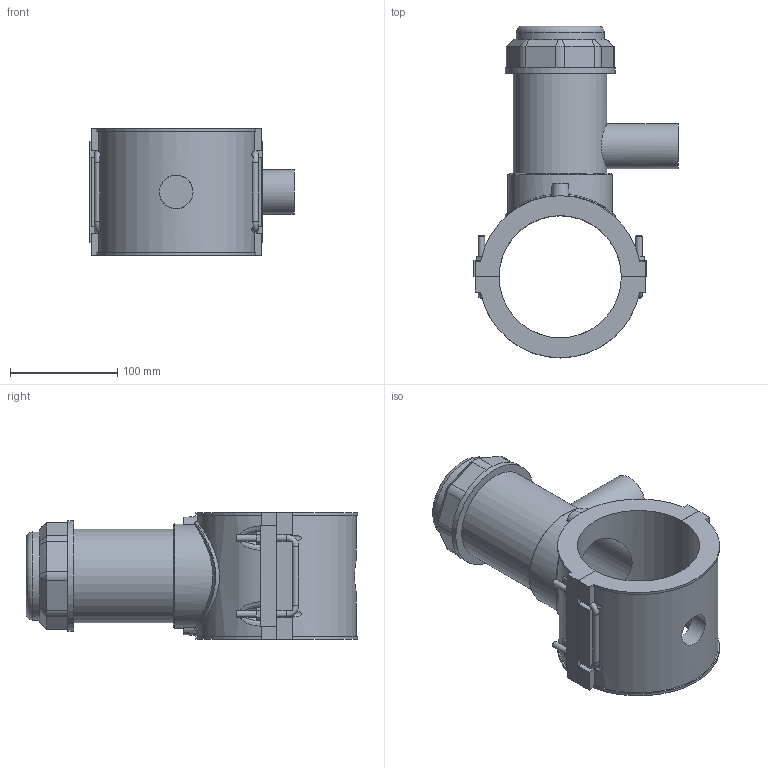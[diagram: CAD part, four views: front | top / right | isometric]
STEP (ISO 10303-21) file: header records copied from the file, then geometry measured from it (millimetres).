
FILE_DESCRIPTION(/* description */ ('PLASSON TAPPING SADDLE 4''''IPS x 1 1/4''''IPS'),/* implementation_level */ '2;1');
FILE_NAME(/* name */ 'C:\Dropbox\KIMPROJECTS-Inventor 2019\99-16-3568-Processing Inch\ASTM ElectroFusion 2021\5963B\5963BB03040013.ipt.stp',/* time_stamp */ '2021-08-30T09:55:23+03:00',/* author */ ('KIM'),/* organization */ (''),/* preprocessor_version */ 'ST-DEVELOPER v17.2',/* originating_system */ 'Autodesk Inventor 2019',/* authorisation */ '');
FILE_SCHEMA (('AUTOMOTIVE_DESIGN { 1 0 10303 214 3 1 1 }'));
Length unit declared in the file: millimetre
Products named in the file (1): 5963BB03040013
Bounding box: 190.48 x 309.74 x 118.11 mm (x, y, z)
Volume: 1403609.6 mm3; surface area: 231044.1 mm2
Topology: 1 solids, 1 shells, 216 faces, 587 edges, 384 vertices
Faces by surface type: plane 126, cylinder 60, cone 15, torus 9, bspline 6
Full cylindrical faces by diameter (mm): 6 x7, 31.36 x1, 33.68 x1, 42.1 x1, 71.883 x1, 82.152 x1, 87.287 x1, 97.555 x1, 102.69 x1
Entity records: 8642 total; most frequent: CARTESIAN_POINT 3104, ORIENTED_EDGE 1196, DIRECTION 1093, EDGE_CURVE 598, VERTEX_POINT 384, AXIS2_PLACEMENT_3D 377, LINE 339, VECTOR 339
